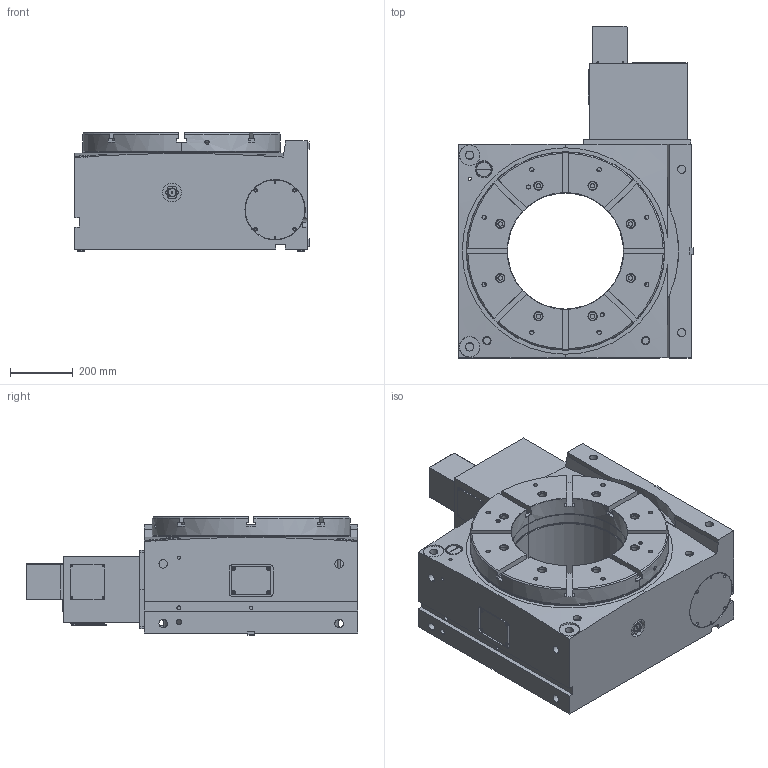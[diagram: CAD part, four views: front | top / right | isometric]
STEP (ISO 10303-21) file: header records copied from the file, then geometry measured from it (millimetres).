
FILE_DESCRIPTION (( 'STEP AP203' ), '1' );
FILE_NAME ('1524350-MDH630R-05.STEP', '2020-11-25T23:14:12', ( '' ), ( '' ), 'SwSTEP 2.0', 'SolidWorks 2019', '' );
FILE_SCHEMA (( 'CONFIG_CONTROL_DESIGN' ));
Length unit declared in the file: millimetre
Products named in the file (1): 1524350-MDH630R-05
Bounding box: 747 x 1056.3 x 377 mm (x, y, z)
Surface area: 3545824.7 mm2 (no closed solid volume)
Topology: 0 solids, 55 shells, 824 faces, 2771 edges, 2002 vertices
Faces by surface type: cylinder 400, plane 312, cone 112
Entity records: 32251 total; most frequent: CARTESIAN_POINT 6868, DIRECTION 5732, ORIENTED_EDGE 4425, EDGE_CURVE 2771, AXIS2_PLACEMENT_3D 2217, VERTEX_POINT 2002, CIRCLE 1392, LINE 1298
